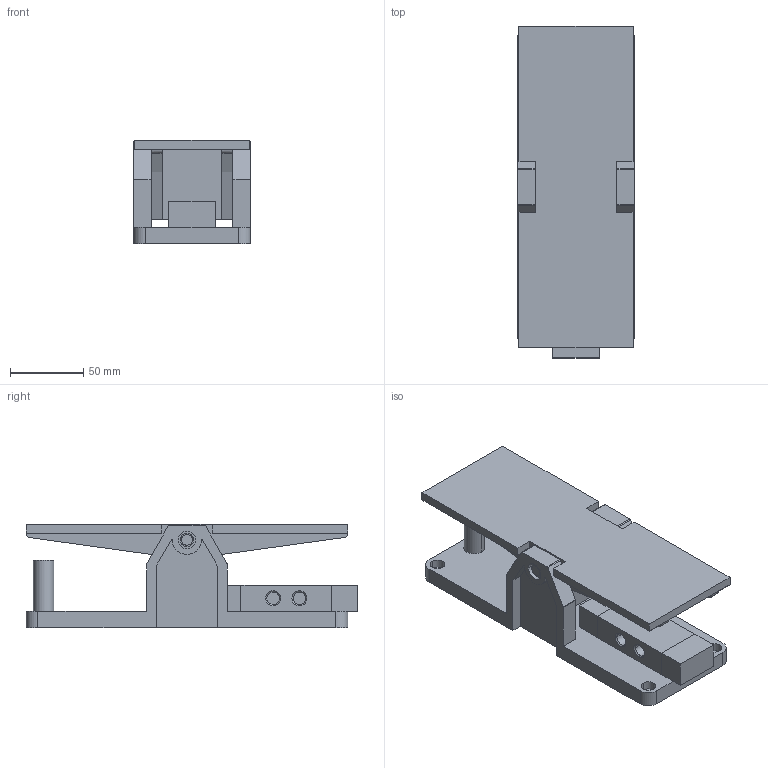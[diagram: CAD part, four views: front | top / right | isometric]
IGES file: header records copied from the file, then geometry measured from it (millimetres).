
Global section: file name: No Iges File Name specified; native system: AutoDesk Inventor R11.0; preprocessor: AutoDesk Inventor Iges Exporter R11.0; author: No Author specified; organization: No Organization specified; date: 20061219.113158; units: millimetre
Bounding box: 80 x 227 x 70.5 mm (x, y, z)
Volume: 432188 mm3; surface area: 117862.2 mm2
Topology: 2 solids, 2 shells, 162 faces, 412 edges, 268 vertices
Faces by surface type: plane 70, bspline 63, cylinder 21, revolution 8
